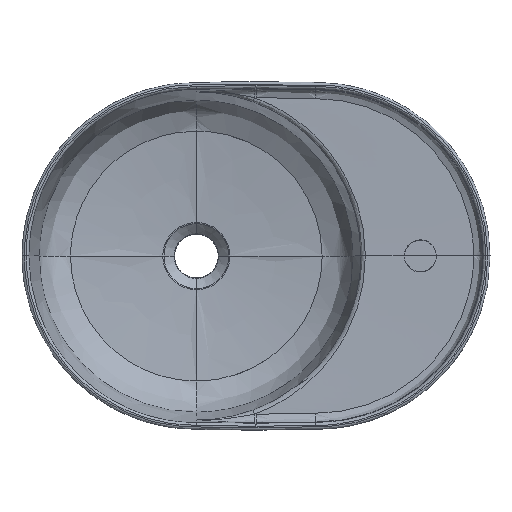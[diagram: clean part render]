
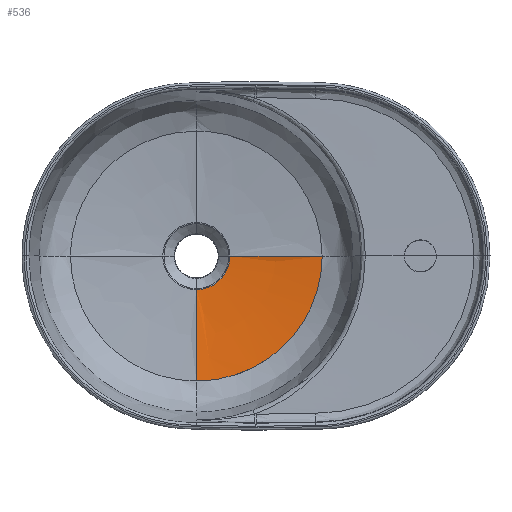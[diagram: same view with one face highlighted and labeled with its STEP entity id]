
A CAD part, top view. The second image highlights one B-rep face of the part: STEP entity #536.
In plain terms, the highlighted face is a revolution surface.
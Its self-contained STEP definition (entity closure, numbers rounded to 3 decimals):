
#46=SURFACE_OF_REVOLUTION('',#2443,#50);
#50=AXIS1_PLACEMENT('',#106939,#2926);
#394=CIRCLE('',#2601,36.582);
#536=ADVANCED_FACE('',(#730),#46,.T.);
#730=FACE_OUTER_BOUND('',#890,.T.);
#890=EDGE_LOOP('',(#1564,#1565,#1566,#1567));
#1564=ORIENTED_EDGE('',*,*,#2047,.T.);
#1565=ORIENTED_EDGE('',*,*,#2228,.T.);
#1566=ORIENTED_EDGE('',*,*,#2230,.F.);
#1567=ORIENTED_EDGE('',*,*,#2231,.F.);
#1767=VERTEX_POINT('',#7316);
#1770=VERTEX_POINT('',#7332);
#1869=VERTEX_POINT('',#106894);
#1870=VERTEX_POINT('',#106906);
#2047=EDGE_CURVE('',#1770,#1767,#2330,.T.);
#2228=EDGE_CURVE('',#1767,#1869,#394,.T.);
#2230=EDGE_CURVE('',#1870,#1869,#2441,.T.);
#2231=EDGE_CURVE('',#1770,#1870,#2442,.T.);
#2330=B_SPLINE_CURVE_WITH_KNOTS('',3,(#7325,#7326,#7327,#7328,#7329,#7330,
#7331),.UNSPECIFIED.,.F.,.F.,(4,1,1,1,4),(0.,0.242,0.495,
0.747,1.),.UNSPECIFIED.);
#2441=B_SPLINE_CURVE_WITH_KNOTS('',3,(#106899,#106900,#106901,#106902,#106903,
#106904,#106905),.UNSPECIFIED.,.F.,.F.,(4,1,1,1,4),(0.,0.234,
0.49,0.745,1.),.UNSPECIFIED.);
#2442=B_SPLINE_CURVE_WITH_KNOTS('',3,(#106907,#106908,#106909,#106910,#106911,
#106912,#106913,#106914,#106915,#106916,#106917,#106918,#106919,#106920,
#106921,#106922,#106923,#106924,#106925,#106926,#106927,#106928),
 .UNSPECIFIED.,.F.,.F.,(4,2,2,2,2,2,2,2,2,2,4),(0.,0.125,0.25,0.313,
0.375,0.5,0.625,0.75,0.813,0.875,
1.),.UNSPECIFIED.);
#2443=B_SPLINE_CURVE_WITH_KNOTS('',3,(#106929,#106930,#106931,#106932,#106933,
#106934,#106935,#106936,#106937,#106938),.UNSPECIFIED.,.F.,.F.,(4,1,1,1,
1,2,4),(0.,0.059,0.116,0.173,0.293,
0.564,1.),.UNSPECIFIED.);
#2601=AXIS2_PLACEMENT_3D('',#106895,#2918,#2919);
#2918=DIRECTION('',(0.,0.,-1.));
#2919=DIRECTION('',(-1.,0.,0.));
#2926=DIRECTION('',(0.,0.,-1.));
#7316=CARTESIAN_POINT('',(36.582,0.,-100.));
#7325=CARTESIAN_POINT('',(137.109,0.,-91.475));
#7326=CARTESIAN_POINT('',(129.036,0.,-92.488));
#7327=CARTESIAN_POINT('',(112.508,0.,-94.394));
#7328=CARTESIAN_POINT('',(87.483,0.,-96.78));
#7329=CARTESIAN_POINT('',(62.053,0.,-98.71));
#7330=CARTESIAN_POINT('',(45.076,0.,-99.64));
#7331=CARTESIAN_POINT('',(36.582,0.,-100.));
#7332=CARTESIAN_POINT('',(137.109,0.,-91.475));
#106894=CARTESIAN_POINT('',(0.,-36.582,-100.));
#106895=CARTESIAN_POINT('',(0.,0.,-100.));
#106899=CARTESIAN_POINT('',(0.,-136.139,-91.596));
#106900=CARTESIAN_POINT('',(0.,-128.389,-92.562));
#106901=CARTESIAN_POINT('',(0.,-112.184,-94.425));
#106902=CARTESIAN_POINT('',(0.,-87.483,-96.78));
#106903=CARTESIAN_POINT('',(0.,-62.053,-98.71));
#106904=CARTESIAN_POINT('',(0.,-45.076,-99.64));
#106905=CARTESIAN_POINT('',(0.,-36.582,-100.));
#106906=CARTESIAN_POINT('',(0.,-136.139,-91.596));
#106907=CARTESIAN_POINT('',(137.109,0.,-91.475));
#106908=CARTESIAN_POINT('',(137.083,-8.931,-91.478));
#106909=CARTESIAN_POINT('',(136.176,-17.996,-91.48));
#106910=CARTESIAN_POINT('',(132.645,-35.494,-91.486));
#106911=CARTESIAN_POINT('',(130.032,-43.993,-91.491));
#106912=CARTESIAN_POINT('',(124.822,-56.381,-91.502));
#106913=CARTESIAN_POINT('',(122.862,-60.464,-91.506));
#106914=CARTESIAN_POINT('',(118.587,-68.346,-91.514));
#106915=CARTESIAN_POINT('',(116.268,-72.158,-91.518));
#106916=CARTESIAN_POINT('',(108.78,-83.211,-91.53));
#106917=CARTESIAN_POINT('',(103.082,-90.077,-91.539));
#106918=CARTESIAN_POINT('',(90.254,-102.772,-91.554));
#106919=CARTESIAN_POINT('',(83.217,-108.477,-91.56));
#106920=CARTESIAN_POINT('',(68.248,-118.364,-91.572));
#106921=CARTESIAN_POINT('',(60.405,-122.511,-91.575));
#106922=CARTESIAN_POINT('',(48.108,-127.556,-91.582));
#106923=CARTESIAN_POINT('',(43.92,-129.041,-91.584));
#106924=CARTESIAN_POINT('',(35.364,-131.61,-91.588));
#106925=CARTESIAN_POINT('',(30.97,-132.699,-91.589));
#106926=CARTESIAN_POINT('',(17.756,-135.293,-91.594));
#106927=CARTESIAN_POINT('',(8.902,-136.116,-91.599));
#106928=CARTESIAN_POINT('',(0.,-136.139,-91.596));
#106929=CARTESIAN_POINT('',(35.876,0.,-100.03));
#106930=CARTESIAN_POINT('',(44.606,0.,-99.666));
#106931=CARTESIAN_POINT('',(61.818,0.,-98.728));
#106932=CARTESIAN_POINT('',(87.483,0.,-96.78));
#106933=CARTESIAN_POINT('',(122.246,0.,-93.465));
#106934=CARTESIAN_POINT('',(188.578,0.,-85.035));
#106935=CARTESIAN_POINT('',(245.839,0.,-73.309));
#106936=CARTESIAN_POINT('',(349.249,0.,-52.132));
#106937=CARTESIAN_POINT('',(412.981,0.,-39.081));
#106938=CARTESIAN_POINT('',(476.713,0.,-26.029));
#106939=CARTESIAN_POINT('',(0.,0.,-4.753));
